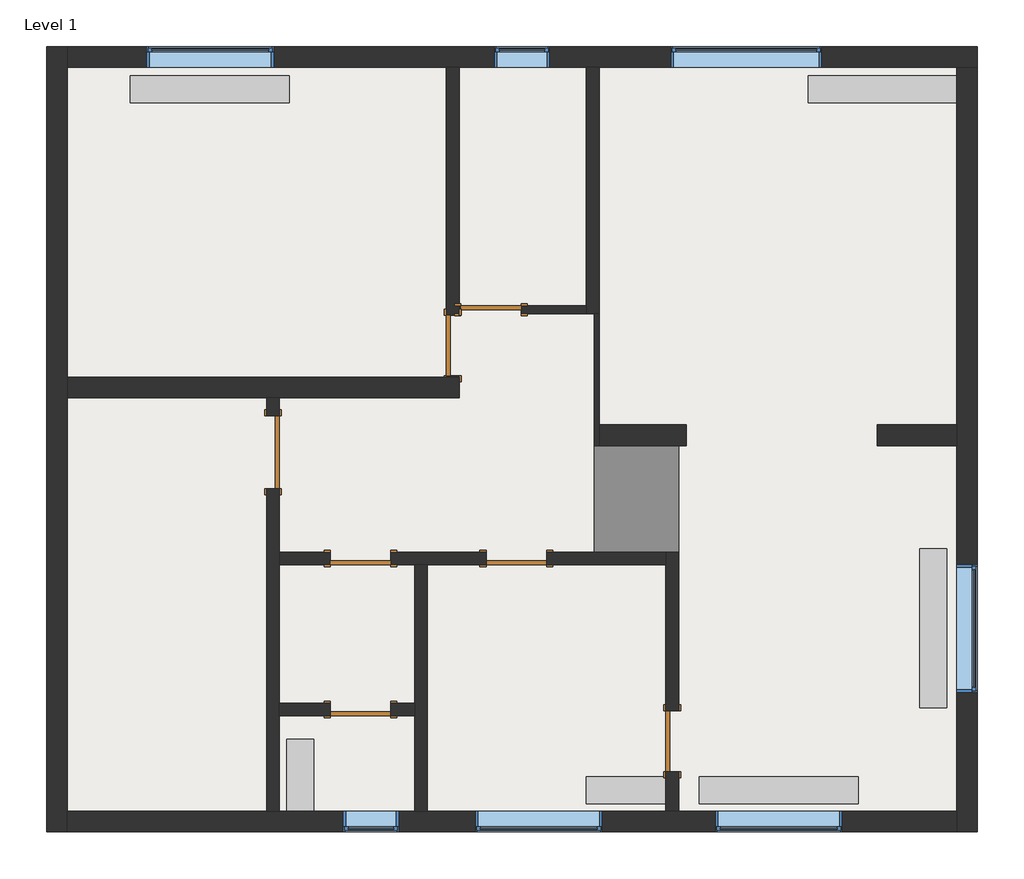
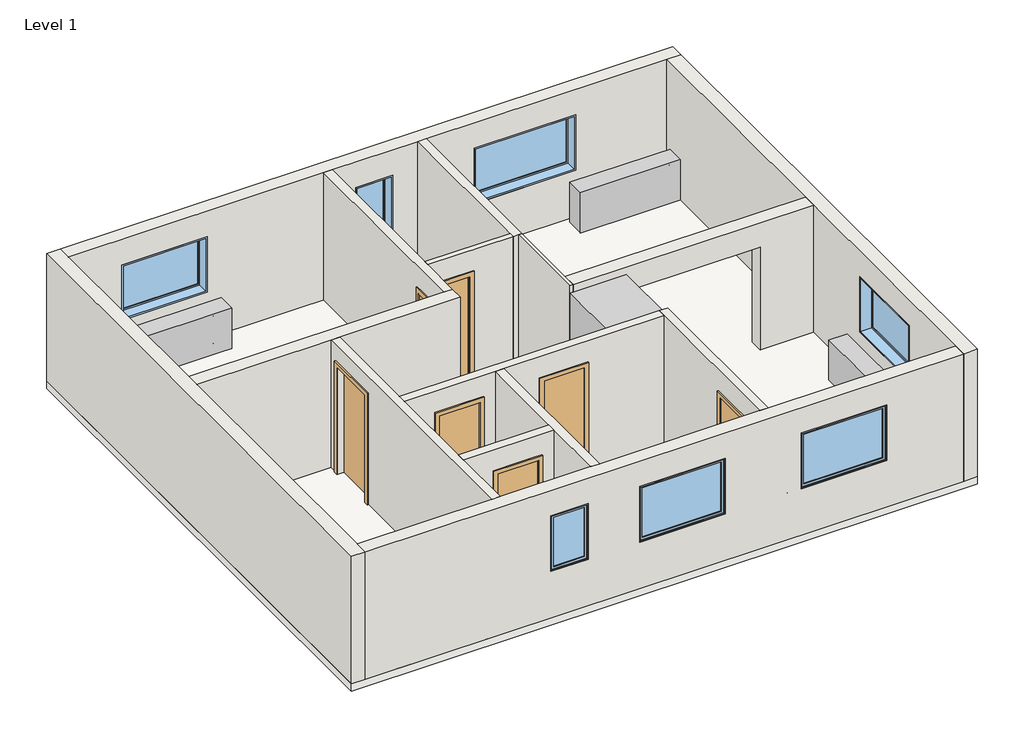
# One storey: 15 walls, 7 doors, 7 windows, 6 unitary equipment elements, 1 furniture element, 1 slab.
"""IFC4 building model written with IfcOpenShell, lengths in millimetres."""

from ifc_helpers import new_model, si_unit, frame, origin, place, context, project, spatial, polyline, outline, extrude, faceted_brep, transform, mapped, element, save
from components import m_single_flush_0762_x_2032mm_6f5f7af1, m_single_flush_0762_x_2032mm_6732b1f7, m_single_flush_0762_x_2032mm_f33351b3, m_single_flush_0915_x_2134mm_27e29ea0, furniture_1_furniture_1_8dd05b43, unitary_equipment_4d061db1, unitary_equipment_6757032b, unitary_equipment_6f832c0a, m_fixed_0700_x_1100mm_63e92665, m_fixed_1600_x_1100mm_008575aa, m_fixed_1900_x_1100mm_ff859e30

model = new_model("IFC4")

# Units and contexts
model_context = context("Model", 3, world=origin())
ifc_project = project(units=[si_unit("LENGTHUNIT", "METRE", prefix="MILLI")], contexts=[model_context])

# Site, building, storey
site = spatial("IfcSite", under=ifc_project)
building = spatial("IfcBuilding", under=site)
storey = spatial("IfcBuildingStorey", under=building, Name="Level 1", Elevation=0.0)

# Doors
placement = place(None, origin())
m_single_flush_0762_x_2032mm_shape = m_single_flush_0762_x_2032mm_6f5f7af1(model_context)
element("IfcDoor", 1, ObjectType="M_Single-Flush : 0762 x 2032mm", at=placement, inside=storey, context=model_context, shape_type="MappedRepresentation", body=[
    mapped(m_single_flush_0762_x_2032mm_shape, transform((-2700.8634976, 2056.4084322, 0.0), x_axis=(0.0, -1.0, 0.0), y_axis=(1.0, 0.0, 0.0), z_axis=(0.0, 0.0, 1.0))),
])
element("IfcDoor", 2, ObjectType="M_Single-Flush : 0762 x 2032mm", at=placement, inside=storey, context=model_context, shape_type="MappedRepresentation", body=[
    mapped(m_single_flush_0762_x_2032mm_shape, transform((59.1365024, -2922.5915678, 0.0), x_axis=(0.0, -1.0, 0.0), y_axis=(1.0, 0.0, 0.0), z_axis=(0.0, 0.0, 1.0))),
])
m_single_flush_0762_x_2032mm_2_shape = m_single_flush_0762_x_2032mm_6732b1f7(model_context)
element("IfcDoor", 3, ObjectType="M_Single-Flush : 0762 x 2032mm", at=placement, inside=storey, context=model_context, shape_type="MappedRepresentation", body=[
    mapped(m_single_flush_0762_x_2032mm_2_shape, transform((-2219.8634976, 2506.4084322, 0.0), x_axis=(1.0, 0.0, 0.0), y_axis=(0.0, 1.0, 0.0), z_axis=(0.0, 0.0, 1.0))),
])
m_single_flush_0762_x_2032mm_3_shape = m_single_flush_0762_x_2032mm_f33351b3(model_context)
element("IfcDoor", 4, ObjectType="M_Single-Flush : 0762 x 2032mm", at=placement, inside=storey, context=model_context, shape_type="MappedRepresentation", body=[
    mapped(m_single_flush_0762_x_2032mm_3_shape, transform((-1901.8634976, -623.5915678, 0.0), x_axis=(-1.0, 0.0, 0.0), y_axis=(0.0, -1.0, 0.0), z_axis=(0.0, 0.0, 1.0))),
])
element("IfcDoor", 5, ObjectType="M_Single-Flush : 0762 x 2032mm", at=placement, inside=storey, context=model_context, shape_type="MappedRepresentation", body=[
    mapped(m_single_flush_0762_x_2032mm_3_shape, transform((-3861.8634976, -2523.5915678, 0.0), x_axis=(-1.0, 0.0, 0.0), y_axis=(0.0, -1.0, 0.0), z_axis=(0.0, 0.0, 1.0))),
])
element("IfcDoor", 6, ObjectType="M_Single-Flush : 0762 x 2032mm", at=placement, inside=storey, context=model_context, shape_type="MappedRepresentation", body=[
    mapped(m_single_flush_0762_x_2032mm_3_shape, transform((-3861.8634976, -623.5915678, 0.0), x_axis=(-1.0, 0.0, 0.0), y_axis=(0.0, -1.0, 0.0), z_axis=(0.0, 0.0, 1.0))),
])
m_single_flush_0915_x_2134mm_shape = m_single_flush_0915_x_2134mm_27e29ea0(model_context)
element("IfcDoor", 7, ObjectType="M_Single-Flush : 0915 x 2134mm", at=placement, inside=storey, context=model_context, shape_type="MappedRepresentation", body=[
    mapped(m_single_flush_0915_x_2134mm_shape, transform((-4960.8634976, 713.9084322, 0.0), x_axis=(0.0, 1.0, 0.0), y_axis=(-1.0, 0.0, 0.0), z_axis=(0.0, 0.0, 1.0))),
])

# Furniture
furniture_1_furniture_1_shape = furniture_1_furniture_1_8dd05b43(model_context)
element("IfcFurniture", 8, ObjectType="Furniture 1 : Furniture 1", at=placement, inside=storey, context=model_context, shape_type="MappedRepresentation", body=[
    mapped(furniture_1_furniture_1_shape, transform((0.0, 0.0, 0.0), x_axis=(1.0, 0.0, 0.0), y_axis=(0.0, 1.0, 0.0), z_axis=(0.0, 0.0, 1.0))),
])

# Slab
element("IfcSlab", 9, ObjectType="Generic 150mm", at=placement, inside=storey, context=model_context, shape_type="SweptSolid", body=[
    extrude(outline(polyline([(-7810.8634976, -4063.5915678), (-7810.8634976, 5816.4084322), (3899.1365024, 5816.4084322), (3899.1365024, -4063.5915678), (-7810.8634976, -4063.5915678)])), frame((0.0, 0.0, -150.0), z_axis=(0.0, 0.0, 1.0), x_axis=(1.0, 0.0, 0.0)), (0.0, 0.0, 1.0), 150.0),
])

# Unitary equipment
unitary_equipment_shape = unitary_equipment_4d061db1(model_context)
element("IfcUnitaryEquipment", 10, ObjectType="nbl_Radiators : nbl_Radiators_1600", at=placement, inside=storey, context=model_context, shape_type="MappedRepresentation", body=[
    mapped(unitary_equipment_shape, transform((-5727.0804199, 6277.3751546, 0.0), x_axis=(1.0, 0.0, 0.0), y_axis=(0.0, 1.0, 0.0), z_axis=(0.0, 0.0, 1.0))),
])
element("IfcUnitaryEquipment", 11, ObjectType="nbl_Radiators : nbl_Radiators_1600", at=placement, inside=storey, context=model_context, shape_type="MappedRepresentation", body=[
    mapped(unitary_equipment_shape, transform((2798.0897566, 6277.3751546, 0.0), x_axis=(1.0, 0.0, 0.0), y_axis=(0.0, 1.0, 0.0), z_axis=(0.0, 0.0, 1.0))),
])
element("IfcUnitaryEquipment", 12, ObjectType="nbl_Radiators : nbl_Radiators_1600", at=placement, inside=storey, context=model_context, shape_type="MappedRepresentation", body=[
    mapped(unitary_equipment_shape, transform((4342.3309976, -1530.2432821, 0.0), x_axis=(0.0, -1.0000000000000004, 0.0), y_axis=(1.0000000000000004, 0.0, 0.0), z_axis=(0.0, 0.0, 1.0))),
])
element("IfcUnitaryEquipment", 13, ObjectType="nbl_Radiators : nbl_Radiators_1600", at=placement, inside=storey, context=model_context, shape_type="MappedRepresentation", body=[
    mapped(unitary_equipment_shape, transform((1369.653756, -4536.1130181, 0.0), x_axis=(-1.0000000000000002, 0.0, 0.0), y_axis=(0.0, -1.0000000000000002, 0.0), z_axis=(0.0, 0.0, 1.0))),
])
unitary_equipment_2_shape = unitary_equipment_6757032b(model_context)
element("IfcUnitaryEquipment", 14, ObjectType="nbl_Radiators : nbl_Radiators-700", at=placement, inside=storey, context=model_context, shape_type="MappedRepresentation", body=[
    mapped(unitary_equipment_2_shape, transform((-499.0914281, -4536.1130181, 0.0), x_axis=(-1.0, 0.0, 0.0), y_axis=(0.0, -1.0, 0.0), z_axis=(0.0, 0.0, 1.0))),
])
unitary_equipment_3_shape = unitary_equipment_6f832c0a(model_context)
element("IfcUnitaryEquipment", 15, ObjectType="nbl_Radiators : nbl_Radiators-625", at=placement, inside=storey, context=model_context, shape_type="MappedRepresentation", body=[
    mapped(unitary_equipment_3_shape, transform((-5618.8559456, -3381.0044534, 0.0), x_axis=(0.0, 1.0, 0.0), y_axis=(-1.0, 0.0, 0.0), z_axis=(0.0, 0.0, 1.0))),
])

# Walls
element("IfcWall", 16, ObjectType="Generic - 100mm", at=placement, inside=storey, context=model_context, shape_type="SweptSolid", body=[
    extrude(outline(polyline([(2032.0, -1838.8634976), (0.0, -1838.8634976), (0.0, -1020.8634976), (2520.0, -1020.8634976), (2520.0, -2620.8634976), (0.0, -2620.8634976), (0.0, -2600.8634976), (2032.0, -2600.8634976), (2032.0, -1838.8634976)])), frame((0.0, 2456.4084322, 0.0), z_axis=(0.0, 1.0, 0.0), x_axis=(0.0, 0.0, 1.0)), (0.0, 0.0, 1.0), 100.0),
])
element("IfcWall", 17, ObjectType="Generic - 160mm", at=placement, inside=storey, context=model_context, shape_type="Brep", body=[
    faceted_brep([(-2620.8634976, 5556.4084322, 2520.0), (-2620.8634976, 2556.4084322, 2520.0), (-2620.8634976, 2456.4084322, 2520.0), (-2620.8634976, 1656.4084322, 2520.0), (-2620.8634976, 1656.4084322, 0.0), (-2620.8634976, 1675.4084322, 0.0), (-2620.8634976, 1675.4084322, 2032.0), (-2620.8634976, 2437.4084322, 2032.0), (-2620.8634976, 2437.4084322, 0.0), (-2620.8634976, 2456.4084322, 0.0), (-2620.8634976, 2556.4084322, 0.0), (-2620.8634976, 5556.4084322, 0.0), (-2780.8634976, 1656.4084322, 2520.0), (-2780.8634976, 5556.4084322, 2520.0), (-2780.8634976, 5556.4084322, 0.0), (-2780.8634976, 2437.4084322, 0.0), (-2780.8634976, 2437.4084322, 2032.0), (-2780.8634976, 1675.4084322, 2032.0), (-2780.8634976, 1675.4084322, 0.0), (-2780.8634976, 1656.4084322, 0.0)], [[[0, 1, 2, 3, 4, 5, 6, 7, 8, 9, 10, 11]], [[12, 13, 14, 15, 16, 17, 18, 19]], [[4, 19, 18, 5]], [[14, 11, 10, 9, 8, 15]], [[3, 2, 1, 0, 13, 12]], [[4, 3, 12, 19]], [[0, 11, 14, 13]], [[17, 6, 5, 18]], [[6, 17, 16, 7]], [[7, 16, 15, 8]]]),
])
element("IfcWall", 18, ObjectType="Generic - 160mm", at=placement, inside=storey, context=model_context, shape_type="Brep", body=[
    faceted_brep([(-1020.8634976, 5556.4084322, 0.0), (-1020.8634976, 2556.4084322, 0.0), (-1020.8634976, 2456.4084322, 0.0), (-1020.8634976, 2456.4084322, 2520.0), (-1020.8634976, 2556.4084322, 2520.0), (-1020.8634976, 5556.4084322, 2520.0), (-860.8634976, 5556.4084322, 0.0), (-860.8634976, 5556.4084322, 2520.0), (-860.8634976, 2456.4084322, 2520.0), (-860.8634976, 2456.4084322, 0.0), (-920.8634976, 2456.4084322, 0.0), (-920.8634976, 2456.4084322, 2520.0)], [[[0, 1, 2, 3, 4, 5]], [[6, 7, 8, 9]], [[2, 1, 0, 6, 9, 10]], [[5, 4, 3, 11, 8, 7]], [[0, 5, 7, 6]], [[3, 2, 10, 9, 8, 11]]]),
])
element("IfcWall", 19, ObjectType="Generic - 160mm", at=placement, inside=storey, context=model_context, shape_type="Brep", body=[
    faceted_brep([(139.1365024, -3803.5915678, 0.0), (139.1365024, -3303.5915678, 0.0), (139.1365024, -3303.5915678, 2032.0), (139.1365024, -2541.5915678, 2032.0), (139.1365024, -2541.5915678, 0.0), (139.1365024, -543.5915678, 0.0), (139.1365024, -543.5915678, 2520.0), (139.1365024, -3803.5915678, 2520.0), (-20.8634976, -3303.5915678, 2032.0), (-20.8634976, -3303.5915678, 0.0), (-20.8634976, -3803.5915678, 0.0), (-20.8634976, -3803.5915678, 2520.0), (-20.8634976, -703.5915678, 2520.0), (-20.8634976, -543.5915678, 2520.0), (-20.8634976, -543.5915678, 0.0), (-20.8634976, -703.5915678, 0.0), (-20.8634976, -2541.5915678, 0.0), (-20.8634976, -2541.5915678, 2032.0)], [[[0, 1, 2, 3, 4, 5, 6, 7]], [[8, 9, 10, 11, 12, 13, 14, 15, 16, 17]], [[10, 9, 1, 0]], [[16, 15, 14, 5, 4]], [[7, 6, 13, 12, 11]], [[0, 7, 11, 10]], [[6, 5, 14, 13]], [[2, 1, 9, 8]], [[3, 2, 8, 17]], [[4, 3, 17, 16]]]),
])
element("IfcWall", 20, ObjectType="Generic - 160mm", at=placement, inside=storey, context=model_context, shape_type="Brep", body=[
    faceted_brep([(-4242.8634976, -543.5915678, 2032.0), (-4242.8634976, -543.5915678, 0.0), (-4880.8634976, -543.5915678, 0.0), (-4880.8634976, -543.5915678, 2520.0), (-20.8634976, -543.5915678, 2520.0), (-20.8634976, -543.5915678, 0.0), (-1520.8634976, -543.5915678, 0.0), (-1520.8634976, -543.5915678, 2032.0), (-2282.8634976, -543.5915678, 2032.0), (-2282.8634976, -543.5915678, 0.0), (-3480.8634976, -543.5915678, 0.0), (-3480.8634976, -543.5915678, 2032.0), (-4880.8634976, -703.5915678, 0.0), (-4242.8634976, -703.5915678, 0.0), (-4242.8634976, -703.5915678, 2032.0), (-3480.8634976, -703.5915678, 2032.0), (-3480.8634976, -703.5915678, 0.0), (-3180.8634976, -703.5915678, 0.0), (-3020.8634976, -703.5915678, 0.0), (-2282.8634976, -703.5915678, 0.0), (-2282.8634976, -703.5915678, 2032.0), (-1520.8634976, -703.5915678, 2032.0), (-1520.8634976, -703.5915678, 0.0), (-20.8634976, -703.5915678, 0.0), (-20.8634976, -703.5915678, 2520.0), (-3020.8634976, -703.5915678, 2520.0), (-3180.8634976, -703.5915678, 2520.0), (-4880.8634976, -703.5915678, 2520.0)], [[[0, 1, 2, 3, 4, 5, 6, 7, 8, 9, 10, 11]], [[12, 13, 14, 15, 16, 17, 18, 19, 20, 21, 22, 23, 24, 25, 26, 27]], [[6, 5, 23, 22]], [[10, 9, 19, 18, 17, 16]], [[2, 1, 13, 12]], [[4, 3, 27, 26, 25, 24]], [[5, 4, 24, 23]], [[3, 2, 12, 27]], [[20, 19, 9, 8]], [[21, 20, 8, 7]], [[22, 21, 7, 6]], [[14, 13, 1, 0]], [[15, 14, 0, 11]], [[16, 15, 11, 10]]]),
])
element("IfcWall", 21, ObjectType="Generic - 160mm", at=placement, inside=storey, context=model_context, shape_type="Brep", body=[
    faceted_brep([(-4880.8634976, 1171.4084322, 2134.0), (-4880.8634976, 1171.4084322, 0.0), (-4880.8634976, 1396.4084322, 0.0), (-4880.8634976, 1396.4084322, 2520.0), (-4880.8634976, -543.5915678, 2520.0), (-4880.8634976, -703.5915678, 2520.0), (-4880.8634976, -2443.5915678, 2520.0), (-4880.8634976, -2603.5915678, 2520.0), (-4880.8634976, -3803.5915678, 2520.0), (-4880.8634976, -3803.5915678, 0.0), (-4880.8634976, -2603.5915678, 0.0), (-4880.8634976, -2443.5915678, 0.0), (-4880.8634976, -703.5915678, 0.0), (-4880.8634976, -543.5915678, 0.0), (-4880.8634976, 256.4084322, 0.0), (-4880.8634976, 256.4084322, 2134.0), (-5040.8634976, 1396.4084322, 0.0), (-5040.8634976, 1171.4084322, 0.0), (-5040.8634976, 1171.4084322, 2134.0), (-5040.8634976, 256.4084322, 2134.0), (-5040.8634976, 256.4084322, 0.0), (-5040.8634976, -3803.5915678, 0.0), (-5040.8634976, -3803.5915678, 2520.0), (-5040.8634976, 1396.4084322, 2520.0)], [[[0, 1, 2, 3, 4, 5, 6, 7, 8, 9, 10, 11, 12, 13, 14, 15]], [[16, 17, 18, 19, 20, 21, 22, 23]], [[2, 1, 17, 16]], [[14, 13, 12, 11, 10, 9, 21, 20]], [[8, 7, 6, 5, 4, 3, 23, 22]], [[9, 8, 22, 21]], [[3, 2, 16, 23]], [[18, 17, 1, 0]], [[19, 18, 0, 15]], [[20, 19, 15, 14]]]),
])
element("IfcWall", 22, ObjectType="Generic - 160mm", at=placement, inside=storey, context=model_context, shape_type="Brep", body=[
    faceted_brep([(-3020.8634976, -3803.5915678, 0.0), (-3020.8634976, -703.5915678, 0.0), (-3020.8634976, -703.5915678, 2520.0), (-3020.8634976, -3803.5915678, 2520.0), (-3180.8634976, -3803.5915678, 0.0), (-3180.8634976, -3803.5915678, 2520.0), (-3180.8634976, -2603.5915678, 2520.0), (-3180.8634976, -2443.5915678, 2520.0), (-3180.8634976, -703.5915678, 2520.0), (-3180.8634976, -703.5915678, 0.0), (-3180.8634976, -2443.5915678, 0.0), (-3180.8634976, -2603.5915678, 0.0)], [[[0, 1, 2, 3]], [[4, 5, 6, 7, 8, 9, 10, 11]], [[1, 0, 4, 11, 10, 9]], [[3, 2, 8, 7, 6, 5]], [[0, 3, 5, 4]], [[2, 1, 9, 8]]]),
])
element("IfcWall", 23, ObjectType="Generic - 160mm", at=placement, inside=storey, context=model_context, shape_type="SweptSolid", body=[
    extrude(outline(polyline([(0.0, -4880.8634976), (0.0, -4242.8634976), (2032.0, -4242.8634976), (2032.0, -3480.8634976), (0.0, -3480.8634976), (0.0, -3180.8634976), (2520.0, -3180.8634976), (2520.0, -4880.8634976), (0.0, -4880.8634976)])), frame((0.0, -2603.5915678, 0.0), z_axis=(0.0, 1.0, 0.0), x_axis=(0.0, 0.0, 1.0)), (0.0, 0.0, 1.0), 160.0),
])
element("IfcWall", 24, ObjectType="Generic - 260mm", at=placement, inside=storey, context=model_context, shape_type="Brep", body=[
    faceted_brep([(-7550.8634976, -4063.5915678, 0.0), (-7550.8634976, -3803.5915678, 0.0), (-7550.8634976, 1396.4084322, 0.0), (-7550.8634976, 1656.4084322, 0.0), (-7550.8634976, 5556.4084322, 0.0), (-7550.8634976, 5816.4084322, 0.0), (-7550.8634976, 5816.4084322, 2520.0), (-7550.8634976, 5556.4084322, 2520.0), (-7550.8634976, 1656.4084322, 2520.0), (-7550.8634976, 1396.4084322, 2520.0), (-7550.8634976, -3803.5915678, 2520.0), (-7550.8634976, -4063.5915678, 2520.0), (-7810.8634976, -4063.5915678, 0.0), (-7810.8634976, -4063.5915678, 2520.0), (-7810.8634976, 5816.4084322, 2520.0), (-7810.8634976, 5816.4084322, 0.0)], [[[0, 1, 2, 3, 4, 5, 6, 7, 8, 9, 10, 11]], [[12, 13, 14, 15]], [[5, 4, 3, 2, 1, 0, 12, 15]], [[11, 10, 9, 8, 7, 6, 14, 13]], [[6, 5, 15, 14]], [[0, 11, 13, 12]]]),
])
element("IfcWall", 25, ObjectType="Generic - 260mm", at=placement, inside=storey, context=model_context, shape_type="Brep", body=[
    faceted_brep([(-7550.8634976, 5556.4084322, 0.0), (-2780.8634976, 5556.4084322, 0.0), (-2620.8634976, 5556.4084322, 0.0), (-1020.8634976, 5556.4084322, 0.0), (-860.8634976, 5556.4084322, 0.0), (3639.1365024, 5556.4084322, 0.0), (3899.1365024, 5556.4084322, 0.0), (3899.1365024, 5556.4084322, 2520.0), (3639.1365024, 5556.4084322, 2520.0), (-860.8634976, 5556.4084322, 2520.0), (-1020.8634976, 5556.4084322, 2520.0), (-2620.8634976, 5556.4084322, 2520.0), (-2780.8634976, 5556.4084322, 2520.0), (-7550.8634976, 5556.4084322, 2520.0), (-6550.8634976, 5556.4084322, 915.0), (-6550.8634976, 5556.4084322, 2015.0), (-4950.8634976, 5556.4084322, 2015.0), (-4950.8634976, 5556.4084322, 915.0), (-2180.8634976, 5556.4084322, 915.0), (-2180.8634976, 5556.4084322, 2015.0), (-1480.8634976, 5556.4084322, 2015.0), (-1480.8634976, 5556.4084322, 915.0), (39.1365024, 5556.4084322, 915.0), (39.1365024, 5556.4084322, 2015.0), (1939.1365024, 5556.4084322, 2015.0), (1939.1365024, 5556.4084322, 915.0), (-7550.8634976, 5816.4084322, 0.0), (-7550.8634976, 5816.4084322, 2520.0), (3899.1365024, 5816.4084322, 2520.0), (3899.1365024, 5816.4084322, 0.0), (-6550.8634976, 5816.4084322, 915.0), (-4950.8634976, 5816.4084322, 915.0), (-4950.8634976, 5816.4084322, 2015.0), (-6550.8634976, 5816.4084322, 2015.0), (-2180.8634976, 5816.4084322, 915.0), (-1480.8634976, 5816.4084322, 915.0), (-1480.8634976, 5816.4084322, 2015.0), (-2180.8634976, 5816.4084322, 2015.0), (39.1365024, 5816.4084322, 915.0), (1939.1365024, 5816.4084322, 915.0), (1939.1365024, 5816.4084322, 2015.0), (39.1365024, 5816.4084322, 2015.0)], [[[0, 1, 2, 3, 4, 5, 6, 7, 8, 9, 10, 11, 12, 13], [14, 15, 16, 17], [18, 19, 20, 21], [22, 23, 24, 25]], [[26, 27, 28, 29], [30, 31, 32, 33], [34, 35, 36, 37], [38, 39, 40, 41]], [[6, 5, 4, 3, 2, 1, 0, 26, 29]], [[13, 12, 11, 10, 9, 8, 7, 28, 27]], [[0, 13, 27, 26]], [[7, 6, 29, 28]], [[15, 14, 30, 33]], [[16, 15, 33, 32]], [[17, 16, 32, 31]], [[14, 17, 31, 30]], [[19, 18, 34, 37]], [[20, 19, 37, 36]], [[21, 20, 36, 35]], [[18, 21, 35, 34]], [[23, 22, 38, 41]], [[24, 23, 41, 40]], [[25, 24, 40, 39]], [[22, 25, 39, 38]]]),
])
element("IfcWall", 26, ObjectType="Generic - 260mm", at=placement, inside=storey, context=model_context, shape_type="Brep", body=[
    faceted_brep([(3639.1365024, 5556.4084322, 0.0), (3639.1365024, 1056.4084322, 0.0), (3639.1365024, 796.4084322, 0.0), (3639.1365024, -3803.5915678, 0.0), (3639.1365024, -4063.5915678, 0.0), (3639.1365024, -4063.5915678, 2520.0), (3639.1365024, -3803.5915678, 2520.0), (3639.1365024, 796.4084322, 2520.0), (3639.1365024, 1056.4084322, 2520.0), (3639.1365024, 5556.4084322, 2520.0), (3639.1365024, -703.5915678, 915.0), (3639.1365024, -703.5915678, 2015.0), (3639.1365024, -2303.5915678, 2015.0), (3639.1365024, -2303.5915678, 915.0), (3899.1365024, 5556.4084322, 0.0), (3899.1365024, 5556.4084322, 2520.0), (3899.1365024, -4063.5915678, 2520.0), (3899.1365024, -4063.5915678, 0.0), (3899.1365024, -703.5915678, 915.0), (3899.1365024, -2303.5915678, 915.0), (3899.1365024, -2303.5915678, 2015.0), (3899.1365024, -703.5915678, 2015.0)], [[[0, 1, 2, 3, 4, 5, 6, 7, 8, 9], [10, 11, 12, 13]], [[14, 15, 16, 17], [18, 19, 20, 21]], [[4, 3, 2, 1, 0, 14, 17]], [[9, 8, 7, 6, 5, 16, 15]], [[0, 9, 15, 14]], [[5, 4, 17, 16]], [[11, 10, 18, 21]], [[12, 11, 21, 20]], [[13, 12, 20, 19]], [[10, 13, 19, 18]]]),
])
element("IfcWall", 27, ObjectType="Generic - 260mm", at=placement, inside=storey, context=model_context, shape_type="Brep", body=[
    faceted_brep([(3639.1365024, -3803.5915678, 0.0), (139.1365024, -3803.5915678, 0.0), (-20.8634976, -3803.5915678, 0.0), (-3020.8634976, -3803.5915678, 0.0), (-3180.8634976, -3803.5915678, 0.0), (-4880.8634976, -3803.5915678, 0.0), (-5040.8634976, -3803.5915678, 0.0), (-7550.8634976, -3803.5915678, 0.0), (-7550.8634976, -3803.5915678, 2520.0), (-5040.8634976, -3803.5915678, 2520.0), (-4880.8634976, -3803.5915678, 2520.0), (-3180.8634976, -3803.5915678, 2520.0), (-3020.8634976, -3803.5915678, 2520.0), (-20.8634976, -3803.5915678, 2520.0), (139.1365024, -3803.5915678, 2520.0), (3639.1365024, -3803.5915678, 2520.0), (2199.1365024, -3803.5915678, 915.0), (2199.1365024, -3803.5915678, 2015.0), (599.1365024, -3803.5915678, 2015.0), (599.1365024, -3803.5915678, 915.0), (-820.8634976, -3803.5915678, 915.0), (-820.8634976, -3803.5915678, 2015.0), (-2420.8634976, -3803.5915678, 2015.0), (-2420.8634976, -3803.5915678, 915.0), (-3380.8634976, -3803.5915678, 915.0), (-3380.8634976, -3803.5915678, 2015.0), (-4080.8634976, -3803.5915678, 2015.0), (-4080.8634976, -3803.5915678, 915.0), (3639.1365024, -4063.5915678, 0.0), (3639.1365024, -4063.5915678, 2520.0), (-7550.8634976, -4063.5915678, 2520.0), (-7550.8634976, -4063.5915678, 0.0), (2199.1365024, -4063.5915678, 915.0), (599.1365024, -4063.5915678, 915.0), (599.1365024, -4063.5915678, 2015.0), (2199.1365024, -4063.5915678, 2015.0), (-820.8634976, -4063.5915678, 915.0), (-2420.8634976, -4063.5915678, 915.0), (-2420.8634976, -4063.5915678, 2015.0), (-820.8634976, -4063.5915678, 2015.0), (-3380.8634976, -4063.5915678, 915.0), (-4080.8634976, -4063.5915678, 915.0), (-4080.8634976, -4063.5915678, 2015.0), (-3380.8634976, -4063.5915678, 2015.0)], [[[0, 1, 2, 3, 4, 5, 6, 7, 8, 9, 10, 11, 12, 13, 14, 15], [16, 17, 18, 19], [20, 21, 22, 23], [24, 25, 26, 27]], [[28, 29, 30, 31], [32, 33, 34, 35], [36, 37, 38, 39], [40, 41, 42, 43]], [[7, 6, 5, 4, 3, 2, 1, 0, 28, 31]], [[15, 14, 13, 12, 11, 10, 9, 8, 30, 29]], [[8, 7, 31, 30]], [[0, 15, 29, 28]], [[17, 16, 32, 35]], [[18, 17, 35, 34]], [[19, 18, 34, 33]], [[16, 19, 33, 32]], [[21, 20, 36, 39]], [[22, 21, 39, 38]], [[23, 22, 38, 37]], [[20, 23, 37, 36]], [[25, 24, 40, 43]], [[26, 25, 43, 42]], [[27, 26, 42, 41]], [[24, 27, 41, 40]]]),
])
element("IfcWall", 28, ObjectType="Generic - 260mm", at=placement, inside=storey, context=model_context, shape_type="Brep", body=[
    faceted_brep([(-7550.8634976, 1396.4084322, 0.0), (-5040.8634976, 1396.4084322, 0.0), (-4880.8634976, 1396.4084322, 0.0), (-2620.8634976, 1396.4084322, 0.0), (-2620.8634976, 1396.4084322, 2520.0), (-4880.8634976, 1396.4084322, 2520.0), (-5040.8634976, 1396.4084322, 2520.0), (-7550.8634976, 1396.4084322, 2520.0), (-7550.8634976, 1656.4084322, 0.0), (-7550.8634976, 1656.4084322, 2520.0), (-2780.8634976, 1656.4084322, 2520.0), (-2620.8634976, 1656.4084322, 2520.0), (-2620.8634976, 1656.4084322, 0.0), (-2780.8634976, 1656.4084322, 0.0)], [[[0, 1, 2, 3, 4, 5, 6, 7]], [[8, 9, 10, 11, 12, 13]], [[3, 2, 1, 0, 8, 13, 12]], [[7, 6, 5, 4, 11, 10, 9]], [[0, 7, 9, 8]], [[4, 3, 12, 11]]]),
])
element("IfcWall", 29, ObjectType="Generic - 260mm", at=placement, inside=storey, context=model_context, shape_type="SweptSolid", body=[
    extrude(outline(polyline([(0.0, -860.8634976), (0.0, 239.1365024), (2032.0, 239.1365024), (2032.0, 2639.1365024), (0.0, 2639.1365024), (0.0, 3639.1365024), (2520.0, 3639.1365024), (2520.0, -860.8634976), (0.0, -860.8634976)])), frame((0.0, 796.4084322, 0.0), z_axis=(0.0, 1.0, 0.0), x_axis=(0.0, 0.0, 1.0)), (0.0, 0.0, 1.0), 260.0),
])
element("IfcWall", 30, ObjectType="Generic - 60mm", at=placement, inside=storey, context=model_context, shape_type="Brep", body=[
    faceted_brep([(-920.8634976, 2456.4084322, 0.0), (-920.8634976, 796.4084322, 0.0), (-920.8634976, 796.4084322, 2520.0), (-920.8634976, 2456.4084322, 2520.0), (-860.8634976, 2456.4084322, 0.0), (-860.8634976, 2456.4084322, 2520.0), (-860.8634976, 1056.4084322, 2520.0), (-860.8634976, 796.4084322, 2520.0), (-860.8634976, 796.4084322, 0.0), (-860.8634976, 1056.4084322, 0.0)], [[[0, 1, 2, 3]], [[4, 5, 6, 7, 8, 9]], [[1, 0, 4, 9, 8]], [[3, 2, 7, 6, 5]], [[0, 3, 5, 4]], [[2, 1, 8, 7]]]),
])

# Windows
m_fixed_0700_x_1100mm_shape = m_fixed_0700_x_1100mm_63e92665(model_context)
element("IfcWindow", 31, ObjectType="M_Fixed : 0700 x 1100mm", at=placement, inside=storey, context=model_context, shape_type="MappedRepresentation", body=[
    mapped(m_fixed_0700_x_1100mm_shape, transform((-1830.8634976, 5673.4084322, 0.0), x_axis=(1.0, 0.0, 0.0), y_axis=(0.0, 1.0, 0.0), z_axis=(0.0, 0.0, 1.0))),
])
element("IfcWindow", 32, ObjectType="M_Fixed : 0700 x 1100mm", at=placement, inside=storey, context=model_context, shape_type="MappedRepresentation", body=[
    mapped(m_fixed_0700_x_1100mm_shape, transform((-3730.8634976, -3920.5915678, 0.0), x_axis=(-1.0, 0.0, 0.0), y_axis=(0.0, -1.0, 0.0), z_axis=(0.0, 0.0, 1.0))),
])
m_fixed_1600_x_1100mm_shape = m_fixed_1600_x_1100mm_008575aa(model_context)
element("IfcWindow", 33, ObjectType="M_Fixed : 1600 x 1100mm", at=placement, inside=storey, context=model_context, shape_type="MappedRepresentation", body=[
    mapped(m_fixed_1600_x_1100mm_shape, transform((-5750.8634976, 5673.4084322, 0.0), x_axis=(1.0, 0.0, 0.0), y_axis=(0.0, 1.0, 0.0), z_axis=(0.0, 0.0, 1.0))),
])
element("IfcWindow", 34, ObjectType="M_Fixed : 1600 x 1100mm", at=placement, inside=storey, context=model_context, shape_type="MappedRepresentation", body=[
    mapped(m_fixed_1600_x_1100mm_shape, transform((3756.1365024, -1503.5915678, 0.0), x_axis=(0.0, -1.0, 0.0), y_axis=(1.0, 0.0, 0.0), z_axis=(0.0, 0.0, 1.0))),
])
element("IfcWindow", 35, ObjectType="M_Fixed : 1600 x 1100mm", at=placement, inside=storey, context=model_context, shape_type="MappedRepresentation", body=[
    mapped(m_fixed_1600_x_1100mm_shape, transform((1399.1365024, -3920.5915678, 0.0), x_axis=(-1.0, 0.0, 0.0), y_axis=(0.0, -1.0, 0.0), z_axis=(0.0, 0.0, 1.0))),
])
element("IfcWindow", 36, ObjectType="M_Fixed : 1600 x 1100mm", at=placement, inside=storey, context=model_context, shape_type="MappedRepresentation", body=[
    mapped(m_fixed_1600_x_1100mm_shape, transform((-1620.8634976, -3920.5915678, 0.0), x_axis=(-1.0, 0.0, 0.0), y_axis=(0.0, -1.0, 0.0), z_axis=(0.0, 0.0, 1.0))),
])
m_fixed_1900_x_1100mm_shape = m_fixed_1900_x_1100mm_ff859e30(model_context)
element("IfcWindow", 37, ObjectType="M_Fixed : 1900 x 1100mm", at=placement, inside=storey, context=model_context, shape_type="MappedRepresentation", body=[
    mapped(m_fixed_1900_x_1100mm_shape, transform((989.1365024, 5673.4084322, 0.0), x_axis=(1.0, 0.0, 0.0), y_axis=(0.0, 1.0, 0.0), z_axis=(0.0, 0.0, 1.0))),
])

save(model, "model.ifc")
